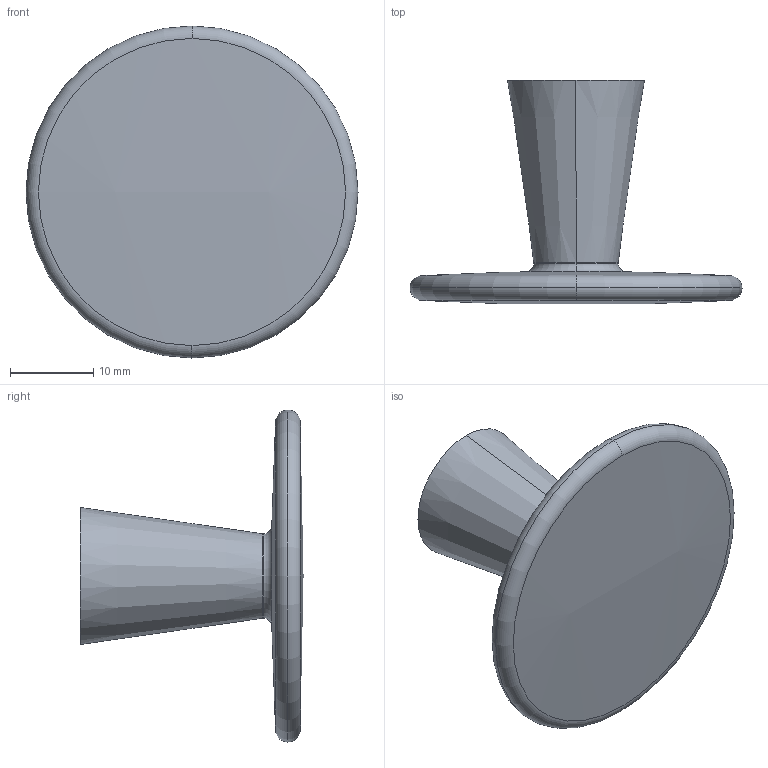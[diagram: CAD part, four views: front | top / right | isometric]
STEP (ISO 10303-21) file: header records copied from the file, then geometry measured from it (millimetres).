
FILE_DESCRIPTION( ( '' ), '1' );
FILE_NAME( 'C:/Documents and Settings/Nikhil/Desktop/Nik/Done/115312.stp', '2013-10-23T11:43:47', ( '' ), ( '' ), ' ', ' ', ' ' );
FILE_SCHEMA( ( 'automotive_design' ) );
Length unit declared in the file: millimetre
Products named in the file (1): 1
Bounding box: 40 x 26.88 x 40 mm (x, y, z)
Volume: 7304.7 mm3; surface area: 3912.4 mm2
Topology: 1 solids, 1 shells, 16 faces, 30 edges, 18 vertices
Faces by surface type: torus 8, cone 2, cylinder 2, plane 2, sphere 2
Entity records: 804 total; most frequent: DIRECTION 90, STYLED_ITEM 65, PRESENTATION_STYLE_ASSIGNMENT 65, CARTESIAN_POINT 65, COLOUR_RGB 65, ORIENTED_EDGE 60, AXIS2_PLACEMENT_3D 43, EDGE_CURVE 30
